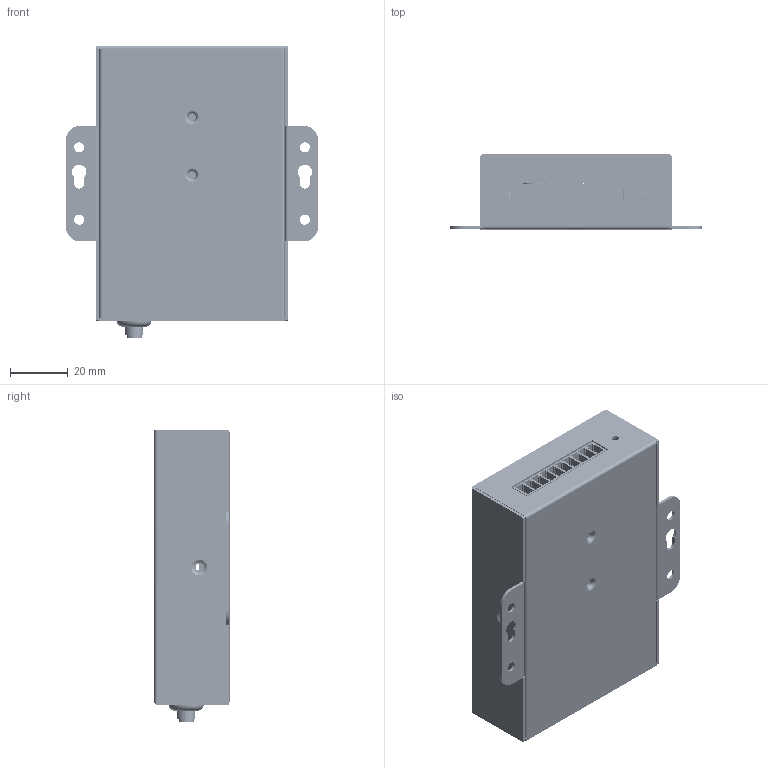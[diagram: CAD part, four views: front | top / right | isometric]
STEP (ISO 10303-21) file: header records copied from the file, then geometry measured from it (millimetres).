
FILE_DESCRIPTION((''),'2;1');
FILE_NAME('00-GLCOM-NET_ASM','2025-02-20T11:10:09',('hepeizong'),(''),'CREO PARAMETRIC BY PTC INC, 2021404','CREO PARAMETRIC BY PTC INC, 2021404','');
FILE_SCHEMA(('CONFIG_CONTROL_DESIGN','SHAPE_APPEARANCE_LAYERS_GROUPS'));
Products named in the file (409): CANET-2E-U-XIA_RNM_; M3-7-MAODING_RNM_; 01-BOT_ASM; CATNET-100-SHANG-V101; GUIJIAOQUAN-2019-8-13_RNM_; 01-ME_ASM; OPEN_CASCADE_STEP_TRANSLAT-1142; BOARD_ASM; R0402_1; R0402_2; R0402_ASM; R130_ASM; R127_ASM; OPEN_CASCADE_STEP_TRANSLA-10416; OPEN_CASCADE_STEP_TRANSLA-10655; OPEN_CASCADE_STEP_TRANSLA-11011; 0402C_ASM; C70_ASM; C69_ASM; HEADER; J9_ASM; SOT23-3; D8_ASM; R122_ASM; R121_ASM; R117_ASM; R17_ASM; C6_ASM; C1_ASM; C40_ASM; R1206_1; R1206_2; R1206_ASM; R107_ASM; R106_ASM; R105_ASM; R104_ASM; C57_ASM; R103_ASM; R99_ASM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
Assembly tree (789 placements, depth 9):
  00-GLCOM-NET_ASM
    01-ME_ASM
      01-BOT_ASM
        CANET-2E-U-XIA_RNM_
        M3-7-MAODING_RNM_  x4
      CATNET-100-SHANG-V101
      GUIJIAOQUAN-2019-8-13_RNM_
    01-PCBA_ASM
      GXCOM-NET_REV_C_ASM
        PCB_ASM
          BOARD_ASM
            OPEN_CASCADE_STEP_TRANSLAT-1142
          R130_ASM
            R0402_ASM
              R0402_1
              R0402_2
          R127_ASM
            R0402_ASM
              R0402_1
              R0402_2
          C70_ASM
            0402C_ASM
              OPEN_CASCADE_STEP_TRANSLA-10416
              OPEN_CASCADE_STEP_TRANSLA-10655
              OPEN_CASCADE_STEP_TRANSLA-11011
          C69_ASM
            0402C_ASM
              OPEN_CASCADE_STEP_TRANSLA-10416
              OPEN_CASCADE_STEP_TRANSLA-10655
              OPEN_CASCADE_STEP_TRANSLA-11011
          J9_ASM
            HEADER  x4
          D8_ASM
            SOT23-3
          R122_ASM
            R0402_ASM
              R0402_1
              R0402_2
          R121_ASM
            R0402_ASM
              R0402_1
              R0402_2
          R117_ASM
            R0402_ASM
              R0402_1
              R0402_2
          R17_ASM
            R0402_ASM
              R0402_1
              R0402_2
          C6_ASM
            0402C_ASM
              OPEN_CASCADE_STEP_TRANSLA-10416
              OPEN_CASCADE_STEP_TRANSLA-10655
              OPEN_CASCADE_STEP_TRANSLA-11011
          C1_ASM
            0402C_ASM
              OPEN_CASCADE_STEP_TRANSLA-10416
              OPEN_CASCADE_STEP_TRANSLA-10655
              OPEN_CASCADE_STEP_TRANSLA-11011
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Bounding box: 87.2 x 26 x 101.05 mm (x, y, z)
Volume: 40874.7 mm3; surface area: 74167.8 mm2
Topology: 743 solids, 743 shells, 22300 faces, 54393 edges, 34248 vertices
Faces by surface type: plane 13175, extrusion 5623, cylinder 2800, sphere 604, bspline 44, torus 36, cone 18
Entity records: 170809 total; most frequent: CARTESIAN_POINT 47666, DIRECTION 19439, ORIENTED_EDGE 17056, EDGE_CURVE 8528, PRESENTATION_STYLE_ASSIGNMENT 8365, STYLED_ITEM 7602, CURVE_STYLE 7525, AXIS2_PLACEMENT_3D 6542
